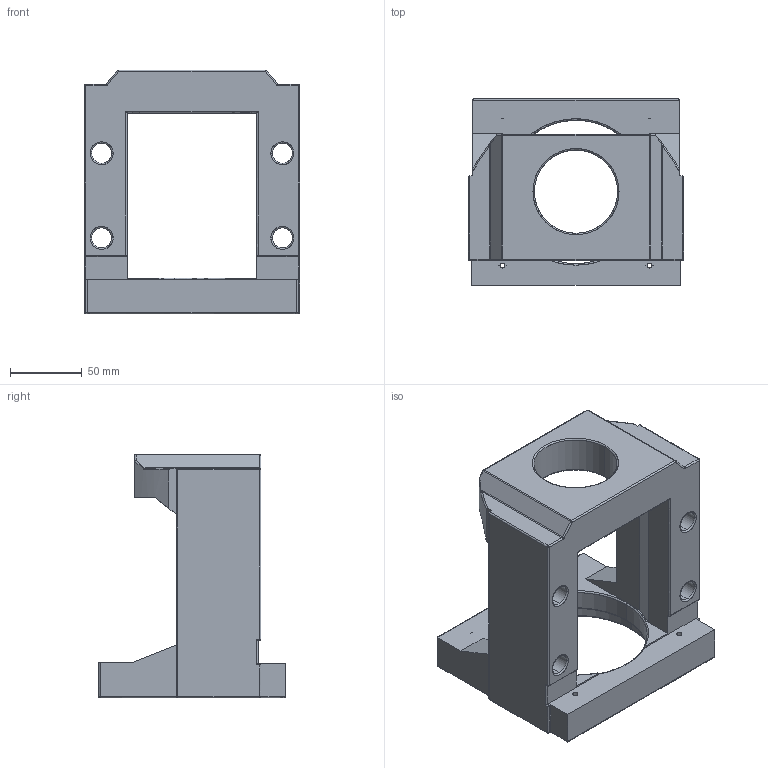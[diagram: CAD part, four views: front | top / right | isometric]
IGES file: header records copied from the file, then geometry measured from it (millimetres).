
Start section: SolidWorks IGES file using analytic representation for surfaces
Bounding box: 150 x 130 x 170 mm (x, y, z)
Surface area: 127324.6 mm2 (no closed solid volume)
Topology: 0 solids, 0 shells, 229 faces, 2798 edges, 2768 vertices
Faces by surface type: revolution 146, bspline 83
